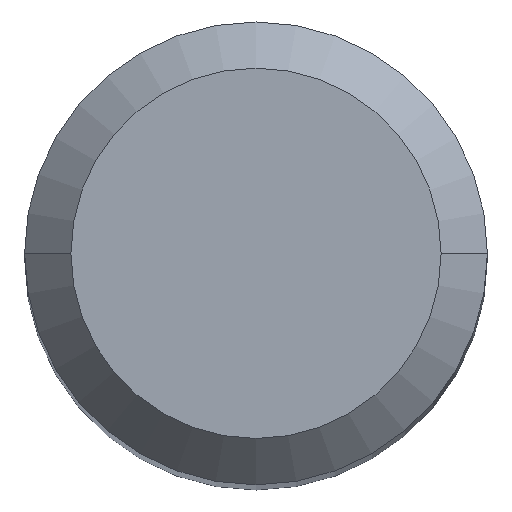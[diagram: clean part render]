
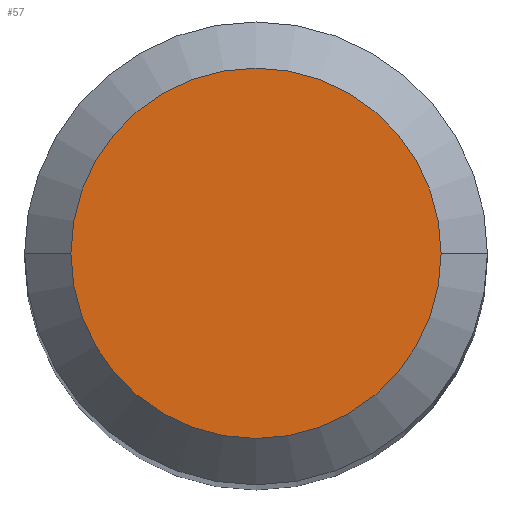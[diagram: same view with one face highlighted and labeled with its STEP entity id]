
A CAD part, top view. The second image highlights one B-rep face of the part: STEP entity #57.
In plain terms, the highlighted planar face has unit normal (0, 0, 1).
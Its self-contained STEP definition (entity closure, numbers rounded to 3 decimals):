
#7 = DIRECTION ( 'NONE',  ( 1., 0., 0. ) ) ;
#33 = EDGE_LOOP ( 'NONE', ( #128, #97 ) ) ;
#48 = AXIS2_PLACEMENT_3D ( 'NONE', #243, #535, #7 ) ;
#57 = ADVANCED_FACE ( 'NONE', ( #433 ), #585, .T. ) ;
#71 = AXIS2_PLACEMENT_3D ( 'NONE', #79, #222, #511 ) ;
#79 = CARTESIAN_POINT ( 'NONE',  ( 0., 0., 0. ) ) ;
#97 = ORIENTED_EDGE ( 'NONE', *, *, #185, .F. ) ;
#100 = CARTESIAN_POINT ( 'NONE',  ( -2.4, 0., 0. ) ) ;
#128 = ORIENTED_EDGE ( 'NONE', *, *, #343, .F. ) ;
#136 = CIRCLE ( 'NONE', #350, 2.4 ) ;
#185 = EDGE_CURVE ( 'NONE', #427, #618, #261, .T. ) ;
#222 = DIRECTION ( 'NONE',  ( 0., 0., -1. ) ) ;
#225 = DIRECTION ( 'NONE',  ( -1., 0., 0. ) ) ;
#243 = CARTESIAN_POINT ( 'NONE',  ( 0., 2.4, 0. ) ) ;
#261 = CIRCLE ( 'NONE', #71, 2.4 ) ;
#271 = DIRECTION ( 'NONE',  ( 0., 0., -1. ) ) ;
#318 = CARTESIAN_POINT ( 'NONE',  ( 0., 0., 0. ) ) ;
#343 = EDGE_CURVE ( 'NONE', #618, #427, #136, .T. ) ;
#350 = AXIS2_PLACEMENT_3D ( 'NONE', #318, #271, #225 ) ;
#427 = VERTEX_POINT ( 'NONE', #539 ) ;
#433 = FACE_OUTER_BOUND ( 'NONE', #33, .T. ) ;
#511 = DIRECTION ( 'NONE',  ( -1., 0., 0. ) ) ;
#535 = DIRECTION ( 'NONE',  ( 0., 0., 1. ) ) ;
#539 = CARTESIAN_POINT ( 'NONE',  ( 2.4, 0., 0. ) ) ;
#585 = PLANE ( 'NONE',  #48 ) ;
#618 = VERTEX_POINT ( 'NONE', #100 ) ;
